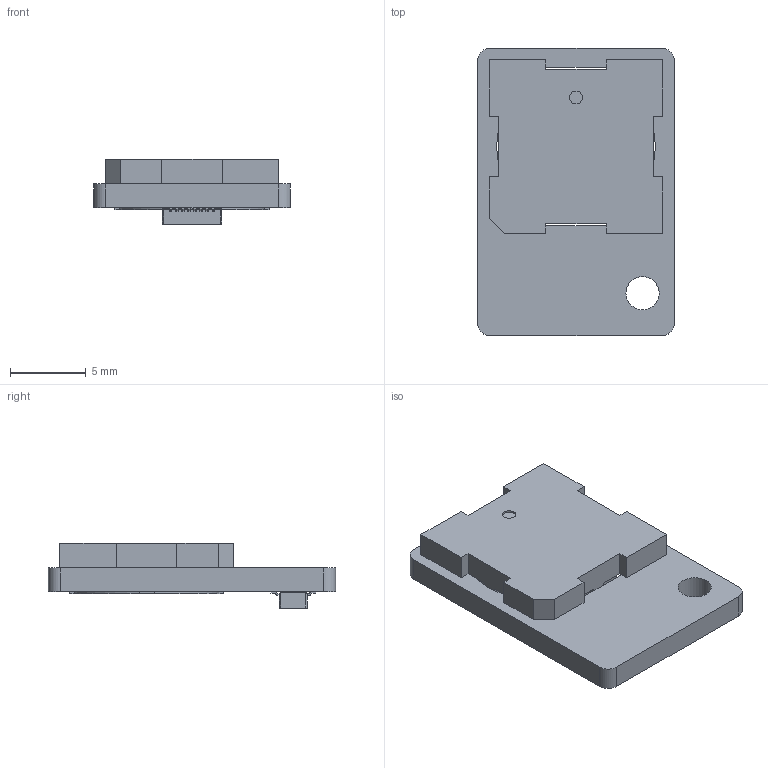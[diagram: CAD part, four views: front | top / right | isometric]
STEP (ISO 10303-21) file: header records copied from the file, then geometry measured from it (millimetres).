
FILE_DESCRIPTION (( 'STEP AP214' ), '1' );
FILE_NAME ('891-001.STEP', '2026-08-13T16:44:49', ( '' ), ( '' ), 'SwSTEP 2.0', 'SolidWorks 2020', '' );
FILE_SCHEMA (( 'AUTOMOTIVE_DESIGN' ));
Length unit declared in the file: millimetre
Products named in the file (5): DF40C-12DP; DGS410 baseboard with connector; DGS410 base board; bare sensor 10x10 H2; 891-001
Assembly tree (4 placements, depth 3):
  891-001
    DGS410 baseboard with connector
      DGS410 base board
      DF40C-12DP
    bare sensor 10x10 H2
Bounding box: 13 x 19 x 4.35 mm (x, y, z)
Volume: 568.5 mm3; surface area: 913.7 mm2
Topology: 3 solids, 3 shells, 350 faces, 998 edges, 664 vertices
Faces by surface type: plane 252, cylinder 98
Full cylindrical faces by diameter (mm): 0.457 x12, 0.85 x1, 2.2 x1
Entity records: 12352 total; most frequent: CARTESIAN_POINT 2166, ORIENTED_EDGE 1968, DIRECTION 1880, EDGE_CURVE 984, LINE 788, VECTOR 788, VERTEX_POINT 664, AXIS2_PLACEMENT_3D 546
